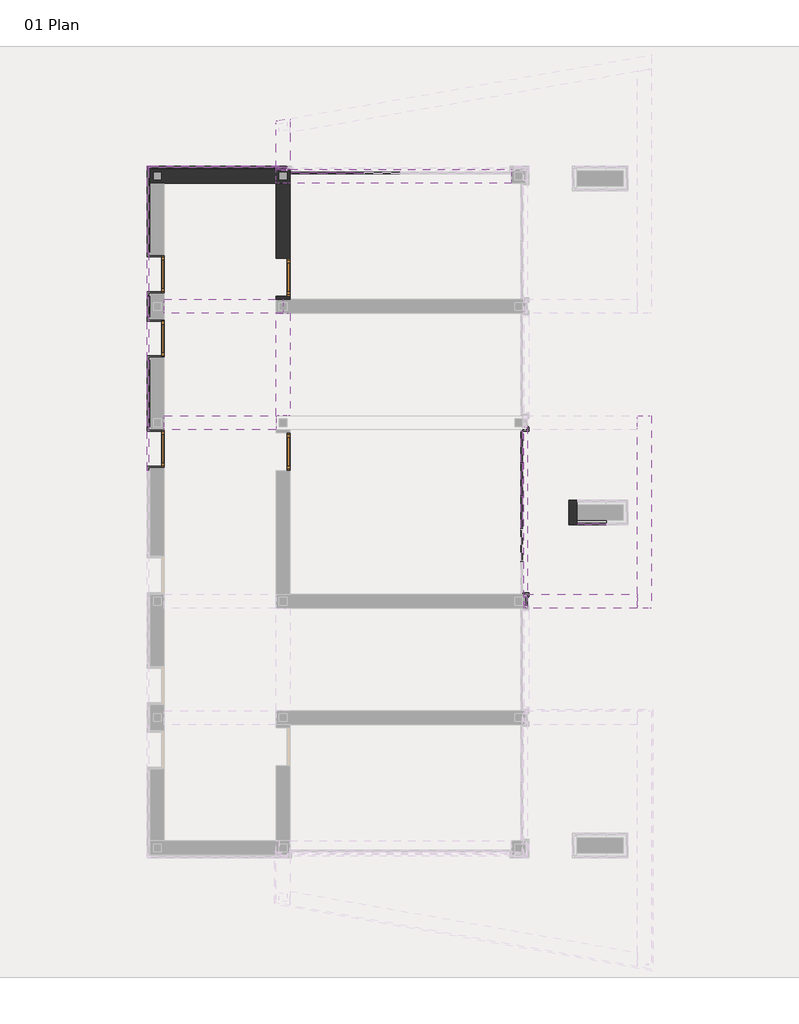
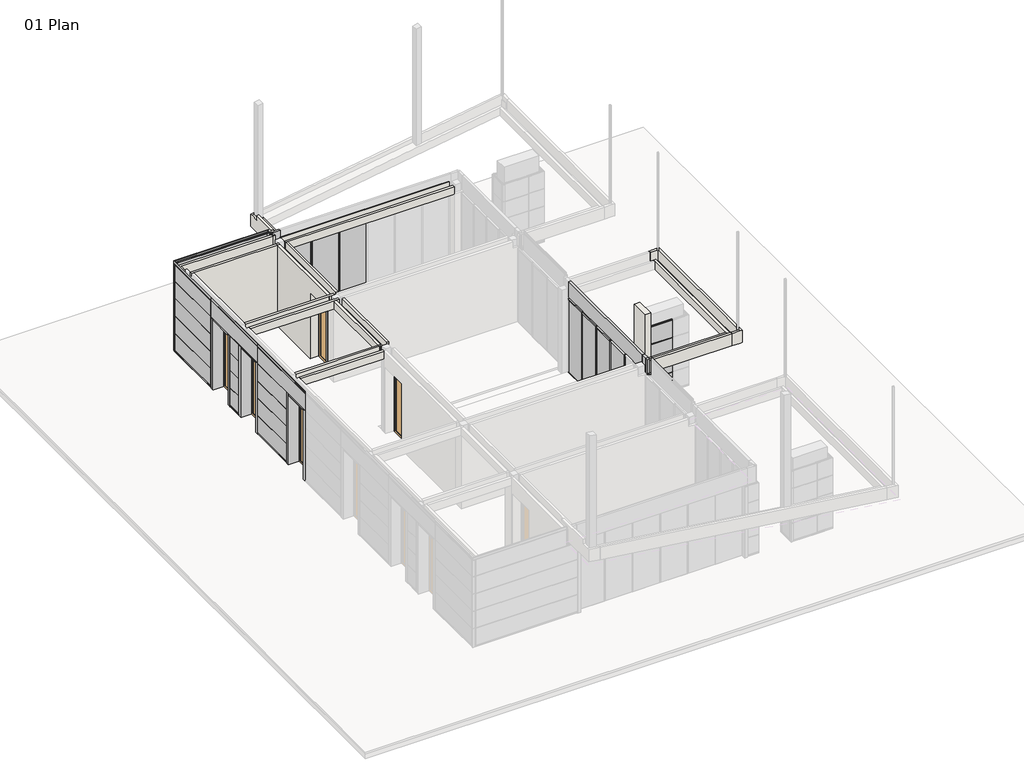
# One storey, part 3 of 5: 44 plates, 19 members, 14 walls, 5 doors.
"""IFC4 building model written with IfcOpenShell, lengths in millimetres."""

from ifc_helpers import new_model, si_unit, frame, origin, place, context, project, spatial, polyline, outline, extrude, faceted_brep, transform, mapped, element, save
from components import door_1100x2900mm_1200x3000mm_8766706f, door_1100x2900mm_1200x3000mm_ee6ac332, door_1100x3068mm_1200x3168mm_a6e2f689, door_1100x3068mm_1200x3168mm_20ba0fd4, rectangular_mullion_d86abf8a, rectangular_mullion_e8d65c67, rectangular_mullion_c5e4a414, rectangular_mullion_8e28913d, rectangular_mullion_bb8d6ff1, rectangular_mullion_e95caec2, rectangular_mullion_08edc9b5, rectangular_mullion_7d0be01b, rectangular_mullion_265d4001, rectangular_mullion_ccc8bb2c, plate_ff0cff65, plate_443b5565, plate_399c5634, plate_297fb12d, plate_8f59ef12, plate_ed5daf5d, plate_2dd1b4a8, plate_870a59b6, plate_dc00106d, plate_37b519e1, plate_084c0bee, plate_07490929, plate_3d22d70f, plate_91c954e3, plate_49ad595c, plate_d4cb7aa0, plate_d049c8db, empty_system_panel_empty_7f93cfdc, empty_system_panel_empty_0363bcf5, empty_system_panel_empty_f8626ec1, empty_system_panel_empty_308f8124, empty_system_panel_empty_b9324def, empty_system_panel_empty_63036f14, empty_system_panel_empty_21350458, empty_system_panel_empty_247011cd, empty_system_panel_empty_27f944e1, system_panel_e7bdd35e, system_panel_c846f28c, system_panel_770c4b70, system_panel_7ee325bc

model = new_model("IFC4")

# Units and contexts
model_context = context("Model", 3, world=origin())
ifc_project = project(units=[si_unit("LENGTHUNIT", "METRE", prefix="MILLI")], contexts=[model_context])

# Site, building, storey
site = spatial("IfcSite", under=ifc_project)
building = spatial("IfcBuilding", under=site)
storey = spatial("IfcBuildingStorey", under=building, Name="01 Plan", Elevation=-4000.0)

# Doors
placement = place(None, origin())
door_1100x2900mm_1200x3000mm_shape = door_1100x2900mm_1200x3000mm_8766706f(model_context)
element("IfcDoor", 1, ObjectType="Door : 1100x2900mm (1200x3000mm)", at=placement, inside=storey, context=model_context, shape_type="MappedRepresentation", body=[
    mapped(door_1100x2900mm_1200x3000mm_shape, transform((-3774.3384937, 1935.5895435, -4000.0), x_axis=(0.0, 1.0, 0.0), y_axis=(-1.0, 0.0, 0.0), z_axis=(0.0, 0.0, 1.0))),
])
door_1100x2900mm_1200x3000mm_2_shape = door_1100x2900mm_1200x3000mm_ee6ac332(model_context)
element("IfcDoor", 2, ObjectType="Door : 1100x2900mm (1200x3000mm)", at=placement, inside=storey, context=model_context, shape_type="MappedRepresentation", body=[
    mapped(door_1100x2900mm_1200x3000mm_2_shape, transform((-3774.3384937, 7555.5895435, -4000.0), x_axis=(0.0, -1.0, 0.0), y_axis=(1.0, 0.0, 0.0), z_axis=(0.0, 0.0, 1.0))),
])
door_1100x3068mm_1200x3168mm_shape = door_1100x3068mm_1200x3168mm_a6e2f689(model_context)
element("IfcDoor", 3, ObjectType="Door : 1100x3068mm (1200x3168mm)", at=placement, inside=storey, context=model_context, shape_type="MappedRepresentation", body=[
    mapped(door_1100x3068mm_1200x3168mm_shape, transform((-7824.3384937, 5585.5895435, -4000.0), x_axis=(0.0, 1.0, 0.0), y_axis=(-1.0, 0.0, 0.0), z_axis=(0.0, 0.0, 1.0))),
])
element("IfcDoor", 4, ObjectType="Door : 1100x3068mm (1200x3168mm)", at=placement, inside=storey, context=model_context, shape_type="MappedRepresentation", body=[
    mapped(door_1100x3068mm_1200x3168mm_shape, transform((-7824.3384937, 2035.5895435, -4000.0), x_axis=(0.0, 1.0, 0.0), y_axis=(-1.0, 0.0, 0.0), z_axis=(0.0, 0.0, 1.0))),
])
door_1100x3068mm_1200x3168mm_2_shape = door_1100x3068mm_1200x3168mm_20ba0fd4(model_context)
element("IfcDoor", 5, ObjectType="Door : 1100x3068mm (1200x3168mm)", at=placement, inside=storey, context=model_context, shape_type="MappedRepresentation", body=[
    mapped(door_1100x3068mm_1200x3168mm_2_shape, transform((-7824.3384937, 7655.5895435, -4000.0), x_axis=(0.0, -1.0, 0.0), y_axis=(1.0, 0.0, 0.0), z_axis=(0.0, 0.0, 1.0))),
])

# Members
rectangular_mullion_shape = rectangular_mullion_d86abf8a(model_context)
element("IfcMember", 6, ObjectType="Rectangular Mullion : Mullion_Curtain Wall_Generic Showcase_50x50mm", at=placement, inside=storey, context=model_context, shape_type="MappedRepresentation", body=[
    mapped(rectangular_mullion_shape, transform((3950.6615063, -509.4104565, -650.0), x_axis=(0.0, 0.0, 1.0), y_axis=(-1.0, 0.0, 0.0), z_axis=(0.0, -1.0, 0.0))),
])
element("IfcMember", 7, ObjectType="Rectangular Mullion : Mullion_Curtain Wall_Generic Showcase_50x50mm", at=placement, inside=storey, context=model_context, shape_type="MappedRepresentation", body=[
    mapped(rectangular_mullion_shape, transform((3950.6615063, 550.5895435, -650.0), x_axis=(0.0, 0.0, 1.0), y_axis=(-1.0, 0.0, 0.0), z_axis=(0.0, -1.0, 0.0))),
])
rectangular_mullion_2_shape = rectangular_mullion_e8d65c67(model_context)
element("IfcMember", 8, ObjectType="Rectangular Mullion : Mullion_Curtain Wall_Generic Showcase_50x50mm", at=placement, inside=storey, context=model_context, shape_type="MappedRepresentation", body=[
    mapped(rectangular_mullion_2_shape, transform((-3549.3384937, 10945.5895435, -650.0), x_axis=(-1.0, 0.0, 0.0), y_axis=(0.0, -1.0, 0.0), z_axis=(0.0, 0.0, 1.0))),
])
rectangular_mullion_3_shape = rectangular_mullion_c5e4a414(model_context)
element("IfcMember", 9, ObjectType="Rectangular Mullion : Mullion_Curtain Wall_Generic Showcase_50x50mm", at=placement, inside=storey, context=model_context, shape_type="MappedRepresentation", body=[
    mapped(rectangular_mullion_3_shape, transform((3950.6615063, -1594.4104565, -4100.0), x_axis=(0.0, -1.0, 0.0), y_axis=(-1.0, 0.0, 0.0), z_axis=(0.0, 0.0, -1.0))),
])
element("IfcMember", 10, ObjectType="Rectangular Mullion : Mullion_Curtain Wall_Generic Showcase_50x50mm", at=placement, inside=storey, context=model_context, shape_type="MappedRepresentation", body=[
    mapped(rectangular_mullion_3_shape, transform((3950.6615063, -534.4104565, -4100.0), x_axis=(0.0, -1.0, 0.0), y_axis=(-1.0, 0.0, 0.0), z_axis=(0.0, 0.0, -1.0))),
])
element("IfcMember", 11, ObjectType="Rectangular Mullion : Mullion_Curtain Wall_Generic Showcase_50x50mm", at=placement, inside=storey, context=model_context, shape_type="MappedRepresentation", body=[
    mapped(rectangular_mullion_3_shape, transform((3950.6615063, 525.5895435, -4100.0), x_axis=(0.0, -1.0, 0.0), y_axis=(-1.0, 0.0, 0.0), z_axis=(0.0, 0.0, -1.0))),
])
element("IfcMember", 12, ObjectType="Rectangular Mullion : Mullion_Curtain Wall_Generic Showcase_50x50mm", at=placement, inside=storey, context=model_context, shape_type="MappedRepresentation", body=[
    mapped(rectangular_mullion_3_shape, transform((3950.6615063, 1585.5895435, -4100.0), x_axis=(0.0, -1.0, 0.0), y_axis=(-1.0, 0.0, 0.0), z_axis=(0.0, 0.0, -1.0))),
])
element("IfcMember", 13, ObjectType="Rectangular Mullion : Mullion_Curtain Wall_Generic Showcase_50x50mm", at=placement, inside=storey, context=model_context, shape_type="MappedRepresentation", body=[
    mapped(rectangular_mullion_3_shape, transform((-1166.0051604, 10945.5895435, -4100.0), x_axis=(1.0, 0.0, 0.0), y_axis=(0.0, -1.0, 0.0), z_axis=(0.0, 0.0, -1.0))),
])
element("IfcMember", 14, ObjectType="Rectangular Mullion : Mullion_Curtain Wall_Generic Showcase_50x50mm", at=placement, inside=storey, context=model_context, shape_type="MappedRepresentation", body=[
    mapped(rectangular_mullion_3_shape, transform((-2357.671827, 10945.5895435, -4100.0), x_axis=(1.0, 0.0, 0.0), y_axis=(0.0, -1.0, 0.0), z_axis=(0.0, 0.0, -1.0))),
])
rectangular_mullion_4_shape = rectangular_mullion_8e28913d(model_context)
element("IfcMember", 15, ObjectType="Rectangular Mullion : Mullion_Curtain Wall_Generic Showcase_50x100mm", at=placement, inside=storey, context=model_context, shape_type="MappedRepresentation", body=[
    mapped(rectangular_mullion_4_shape, transform((3950.6615063, -559.4104565, -4100.0), x_axis=(0.0, 0.0, -1.0), y_axis=(-1.0, 0.0, 0.0), z_axis=(0.0, 1.0, 0.0))),
])
element("IfcMember", 16, ObjectType="Rectangular Mullion : Mullion_Curtain Wall_Generic Showcase_50x100mm", at=placement, inside=storey, context=model_context, shape_type="MappedRepresentation", body=[
    mapped(rectangular_mullion_4_shape, transform((3950.6615063, 500.5895435, -4100.0), x_axis=(0.0, 0.0, -1.0), y_axis=(-1.0, 0.0, 0.0), z_axis=(0.0, 1.0, 0.0))),
])
element("IfcMember", 17, ObjectType="Rectangular Mullion : Mullion_Curtain Wall_Generic Showcase_50x100mm", at=placement, inside=storey, context=model_context, shape_type="MappedRepresentation", body=[
    mapped(rectangular_mullion_4_shape, transform((3950.6615063, 1560.5895435, -4100.0), x_axis=(0.0, 0.0, -1.0), y_axis=(-1.0, 0.0, 0.0), z_axis=(0.0, 1.0, 0.0))),
])
rectangular_mullion_5_shape = rectangular_mullion_bb8d6ff1(model_context)
element("IfcMember", 18, ObjectType="Rectangular Mullion : Mullion_Curtain Wall_Generic Showcase_50x50mm", at=placement, inside=storey, context=model_context, shape_type="MappedRepresentation", body=[
    mapped(rectangular_mullion_5_shape, transform((-1191.0051604, 10945.5895435, -650.0), x_axis=(0.0, 0.0, 1.0), y_axis=(0.0, -1.0, 0.0), z_axis=(1.0, 0.0, 0.0))),
])
rectangular_mullion_6_shape = rectangular_mullion_e95caec2(model_context)
element("IfcMember", 19, ObjectType="Rectangular Mullion : Mullion_Curtain Wall_Generic Showcase_50x100mm", at=placement, inside=storey, context=model_context, shape_type="MappedRepresentation", body=[
    mapped(rectangular_mullion_6_shape, transform((-1141.0051604, 10945.5895435, -4100.0), x_axis=(0.0, 0.0, -1.0), y_axis=(0.0, -1.0, 0.0), z_axis=(-1.0, 0.0, 0.0))),
])
element("IfcMember", 20, ObjectType="Rectangular Mullion : Mullion_Curtain Wall_Generic Showcase_50x100mm", at=placement, inside=storey, context=model_context, shape_type="MappedRepresentation", body=[
    mapped(rectangular_mullion_6_shape, transform((-2332.671827, 10945.5895435, -4100.0), x_axis=(0.0, 0.0, -1.0), y_axis=(0.0, -1.0, 0.0), z_axis=(-1.0, 0.0, 0.0))),
])
rectangular_mullion_7_shape = rectangular_mullion_08edc9b5(model_context)
element("IfcMember", 21, ObjectType="Rectangular Mullion : Mullion_Curtain Wall_Generic Showcase_50x50mm", at=placement, inside=storey, context=model_context, shape_type="MappedRepresentation", body=[
    mapped(rectangular_mullion_7_shape, transform((-2382.671827, 10945.5895435, -650.0), x_axis=(0.0, 0.0, 1.0), y_axis=(0.0, -1.0, 0.0), z_axis=(1.0, 0.0, 0.0))),
])
rectangular_mullion_8_shape = rectangular_mullion_7d0be01b(model_context)
element("IfcMember", 22, ObjectType="Rectangular Mullion : Mullion_Curtain Wall_Generic Showcase_50x100mm", at=placement, inside=storey, context=model_context, shape_type="MappedRepresentation", body=[
    mapped(rectangular_mullion_8_shape, transform((-3499.3384937, 10945.5895435, -4100.0), x_axis=(0.0, 0.0, -1.0), y_axis=(0.0, -1.0, 0.0), z_axis=(-1.0, 0.0, 0.0))),
])
rectangular_mullion_9_shape = rectangular_mullion_265d4001(model_context)
element("IfcMember", 23, ObjectType="Rectangular Mullion : Mullion_Curtain Wall_Generic Showcase_50x50mm", at=placement, inside=storey, context=model_context, shape_type="MappedRepresentation", body=[
    mapped(rectangular_mullion_9_shape, transform((3950.6615063, 1610.5895435, -650.0), x_axis=(0.0, 0.0, 1.0), y_axis=(-1.0, 0.0, 0.0), z_axis=(0.0, -1.0, 0.0))),
])
rectangular_mullion_10_shape = rectangular_mullion_ccc8bb2c(model_context)
element("IfcMember", 24, ObjectType="Rectangular Mullion : Mullion_Curtain Wall_Generic Showcase_50x100mm", at=placement, inside=storey, context=model_context, shape_type="MappedRepresentation", body=[
    mapped(rectangular_mullion_10_shape, transform((3950.6615063, 2595.5895435, -4100.0), x_axis=(0.0, 0.0, -1.0), y_axis=(-1.0, 0.0, 0.0), z_axis=(0.0, 1.0, 0.0))),
])

# Plates
plate_shape = plate_ff0cff65(model_context)
element("IfcPlate", 25, ObjectType="Trimo_Qbiss Screen_Normal Panel-HORIZONTAL : HR - B", at=placement, inside=storey, context=model_context, shape_type="MappedRepresentation", body=[
    mapped(plate_shape, transform((-5848.0884937, 11045.5895435, -2324.1), x_axis=(1.0, 0.0, 0.0), y_axis=(0.0, 1.0, 0.0), z_axis=(0.0, 0.0, 1.0))),
])
element("IfcPlate", 26, ObjectType="Trimo_Qbiss Screen_Normal Panel-HORIZONTAL : HR - B", at=placement, inside=storey, context=model_context, shape_type="MappedRepresentation", body=[
    mapped(plate_shape, transform((-5848.0884937, 11045.5895435, -1536.15), x_axis=(1.0, 0.0, 0.0), y_axis=(0.0, 1.0, 0.0), z_axis=(0.0, 0.0, 1.0))),
])
element("IfcPlate", 27, ObjectType="Trimo_Qbiss Screen_Normal Panel-HORIZONTAL : HR - B", at=placement, inside=storey, context=model_context, shape_type="MappedRepresentation", body=[
    mapped(plate_shape, transform((-5848.0884937, 11045.5895435, -3112.05), x_axis=(1.0, 0.0, 0.0), y_axis=(0.0, 1.0, 0.0), z_axis=(0.0, 0.0, 1.0))),
])
plate_2_shape = plate_443b5565(model_context)
element("IfcPlate", 28, ObjectType="Trimo_Qbiss Screen_Normal Panel-HORIZONTAL : HR - B", at=placement, inside=storey, context=model_context, shape_type="MappedRepresentation", body=[
    mapped(plate_2_shape, transform((-6024.3384937, 11045.5895435, -748.2), x_axis=(1.0, 0.0, 0.0), y_axis=(0.0, 1.0, 0.0), z_axis=(0.0, 0.0, 1.0))),
])
plate_3_shape = plate_399c5634(model_context)
element("IfcPlate", 29, ObjectType="Trimo_Qbiss Screen_Normal Panel-HORIZONTAL : HR - B", at=placement, inside=storey, context=model_context, shape_type="MappedRepresentation", body=[
    mapped(plate_3_shape, transform((-5848.0884937, 11045.5895435, -3900.0), x_axis=(1.0, 0.0, 0.0), y_axis=(0.0, 1.0, 0.0), z_axis=(0.0, 0.0, 1.0))),
])
plate_4_shape = plate_297fb12d(model_context)
element("IfcPlate", 30, ObjectType="Trimo_Qbiss Screen_Normal Panel-HORIZONTAL : HR - B", at=placement, inside=storey, context=model_context, shape_type="MappedRepresentation", body=[
    mapped(plate_4_shape, transform((-8049.3384937, 6620.5895435, -3112.05), x_axis=(0.0, 1.0, 0.0), y_axis=(-1.0, 0.0, 0.0), z_axis=(0.0, 0.0, 1.0))),
])
element("IfcPlate", 31, ObjectType="Trimo_Qbiss Screen_Normal Panel-HORIZONTAL : HR - B", at=placement, inside=storey, context=model_context, shape_type="MappedRepresentation", body=[
    mapped(plate_4_shape, transform((-8049.3384937, 6620.5895435, -2324.1), x_axis=(0.0, 1.0, 0.0), y_axis=(-1.0, 0.0, 0.0), z_axis=(0.0, 0.0, 1.0))),
])
element("IfcPlate", 32, ObjectType="Trimo_Qbiss Screen_Normal Panel-HORIZONTAL : HR - B", at=placement, inside=storey, context=model_context, shape_type="MappedRepresentation", body=[
    mapped(plate_4_shape, transform((-8049.3384937, 6620.5895435, -1536.15), x_axis=(0.0, 1.0, 0.0), y_axis=(-1.0, 0.0, 0.0), z_axis=(0.0, 0.0, 1.0))),
])
plate_5_shape = plate_8f59ef12(model_context)
element("IfcPlate", 33, ObjectType="Trimo_Qbiss Screen_Normal Panel-HORIZONTAL : HR - B", at=placement, inside=storey, context=model_context, shape_type="MappedRepresentation", body=[
    mapped(plate_5_shape, transform((-8049.3384937, 6620.5895435, -3900.0), x_axis=(0.0, 1.0, 0.0), y_axis=(-1.0, 0.0, 0.0), z_axis=(0.0, 0.0, 1.0))),
])
plate_6_shape = plate_ed5daf5d(model_context)
element("IfcPlate", 34, ObjectType="Trimo_Qbiss Screen_Normal Panel-HORIZONTAL : HR - B", at=placement, inside=storey, context=model_context, shape_type="MappedRepresentation", body=[
    mapped(plate_6_shape, transform((-8049.3384937, 9704.3395435, -3112.05), x_axis=(0.0, 1.0, 0.0), y_axis=(-1.0, 0.0, 0.0), z_axis=(0.0, 0.0, 1.0))),
])
element("IfcPlate", 35, ObjectType="Trimo_Qbiss Screen_Normal Panel-HORIZONTAL : HR - B", at=placement, inside=storey, context=model_context, shape_type="MappedRepresentation", body=[
    mapped(plate_6_shape, transform((-8049.3384937, 9704.3395435, -2324.1), x_axis=(0.0, 1.0, 0.0), y_axis=(-1.0, 0.0, 0.0), z_axis=(0.0, 0.0, 1.0))),
])
element("IfcPlate", 36, ObjectType="Trimo_Qbiss Screen_Normal Panel-HORIZONTAL : HR - B", at=placement, inside=storey, context=model_context, shape_type="MappedRepresentation", body=[
    mapped(plate_6_shape, transform((-8049.3384937, 9704.3395435, -1536.15), x_axis=(0.0, 1.0, 0.0), y_axis=(-1.0, 0.0, 0.0), z_axis=(0.0, 0.0, 1.0))),
])
plate_7_shape = plate_2dd1b4a8(model_context)
element("IfcPlate", 37, ObjectType="Trimo_Qbiss Screen_Normal Panel-HORIZONTAL : HR - B", at=placement, inside=storey, context=model_context, shape_type="MappedRepresentation", body=[
    mapped(plate_7_shape, transform((-8049.3384937, 9704.3395435, -748.2), x_axis=(0.0, 1.0, 0.0), y_axis=(-1.0, 0.0, 0.0), z_axis=(0.0, 0.0, 1.0))),
])
plate_8_shape = plate_870a59b6(model_context)
element("IfcPlate", 38, ObjectType="Trimo_Qbiss Screen_Normal Panel-HORIZONTAL : HR - B", at=placement, inside=storey, context=model_context, shape_type="MappedRepresentation", body=[
    mapped(plate_8_shape, transform((-8049.3384937, 9704.3395435, -3900.0), x_axis=(0.0, 1.0, 0.0), y_axis=(-1.0, 0.0, 0.0), z_axis=(0.0, 0.0, 1.0))),
])
plate_9_shape = plate_dc00106d(model_context)
element("IfcPlate", 39, ObjectType="Trimo_Qbiss Screen_Normal Panel-HORIZONTAL : HR - B", at=placement, inside=storey, context=model_context, shape_type="MappedRepresentation", body=[
    mapped(plate_9_shape, transform((-8049.3384937, 6620.5895435, -748.2), x_axis=(0.0, 1.0, 0.0), y_axis=(-1.0, 0.0, 0.0), z_axis=(0.0, 0.0, 1.0))),
])
plate_10_shape = plate_37b519e1(model_context)
element("IfcPlate", 40, ObjectType="Trimo_Qbiss Screen_Normal Panel-HORIZONTAL : HR - B", at=placement, inside=storey, context=model_context, shape_type="MappedRepresentation", body=[
    mapped(plate_10_shape, transform((-8049.3384937, 3810.9895435, -3112.05), x_axis=(0.0, 1.0, 0.0), y_axis=(-1.0, 0.0, 0.0), z_axis=(0.0, 0.0, 1.0))),
])
element("IfcPlate", 41, ObjectType="Trimo_Qbiss Screen_Normal Panel-HORIZONTAL : HR - B", at=placement, inside=storey, context=model_context, shape_type="MappedRepresentation", body=[
    mapped(plate_10_shape, transform((-8049.3384937, 3810.9895435, -2324.1), x_axis=(0.0, 1.0, 0.0), y_axis=(-1.0, 0.0, 0.0), z_axis=(0.0, 0.0, 1.0))),
])
element("IfcPlate", 42, ObjectType="Trimo_Qbiss Screen_Normal Panel-HORIZONTAL : HR - B", at=placement, inside=storey, context=model_context, shape_type="MappedRepresentation", body=[
    mapped(plate_10_shape, transform((-8049.3384937, 3810.9895435, -1536.15), x_axis=(0.0, 1.0, 0.0), y_axis=(-1.0, 0.0, 0.0), z_axis=(0.0, 0.0, 1.0))),
])
plate_11_shape = plate_084c0bee(model_context)
element("IfcPlate", 43, ObjectType="Trimo_Qbiss Screen_Normal Panel-HORIZONTAL : HR - B", at=placement, inside=storey, context=model_context, shape_type="MappedRepresentation", body=[
    mapped(plate_11_shape, transform((-8049.3384937, 3810.9895435, -3900.0), x_axis=(0.0, 1.0, 0.0), y_axis=(-1.0, 0.0, 0.0), z_axis=(0.0, 0.0, 1.0))),
])
plate_12_shape = plate_07490929(model_context)
element("IfcPlate", 44, ObjectType="Trimo_Qbiss Screen_Normal Panel-HORIZONTAL : HR - B", at=placement, inside=storey, context=model_context, shape_type="MappedRepresentation", body=[
    mapped(plate_12_shape, transform((-8049.3384937, 3103.0895435, -748.2), x_axis=(0.0, 1.0, 0.0), y_axis=(-1.0, 0.0, 0.0), z_axis=(0.0, 0.0, 1.0))),
])
plate_13_shape = plate_3d22d70f(model_context)
element("IfcPlate", 45, ObjectType="Trimo_Qbiss Screen_Wall Opening Trims-HORIZONTAL : HR - B", at=placement, inside=storey, context=model_context, shape_type="MappedRepresentation", body=[
    mapped(plate_13_shape, transform((-8049.3384937, 5585.5895435, -4000.0), x_axis=(0.0, 1.0, 0.0), y_axis=(-1.0, 0.0, 0.0), z_axis=(0.0, 0.0, 1.0))),
])
element("IfcPlate", 46, ObjectType="Trimo_Qbiss Screen_Wall Opening Trims-HORIZONTAL : HR - B", at=placement, inside=storey, context=model_context, shape_type="MappedRepresentation", body=[
    mapped(plate_13_shape, transform((-8049.3384937, 7655.5895435, -4000.0), x_axis=(0.0, 1.0, 0.0), y_axis=(-1.0, 0.0, 0.0), z_axis=(0.0, 0.0, 1.0))),
])
plate_14_shape = plate_91c954e3(model_context)
element("IfcPlate", 47, ObjectType="Trimo_Qbiss Screen_Wall Opening Trims-HORIZONTAL : HR - B", at=placement, inside=storey, context=model_context, shape_type="MappedRepresentation", body=[
    mapped(plate_14_shape, transform((-8049.3384937, 2035.9895435, -4000.0), x_axis=(0.0, 1.0, 0.0), y_axis=(-1.0, 0.0, 0.0), z_axis=(0.0, 0.0, 1.0))),
])
plate_15_shape = plate_49ad595c(model_context)
element("IfcPlate", 48, ObjectType="Trimo_Qbiss Screen_Wall Opening Trims-HORIZONTAL : HR - B", at=placement, inside=storey, context=model_context, shape_type="MappedRepresentation", body=[
    mapped(plate_15_shape, transform((4050.6615063, -4.4104565, -4000.0), x_axis=(0.0, -1.0, 0.0), y_axis=(1.0, 0.0, 0.0), z_axis=(0.0, 0.0, 1.0))),
])
plate_16_shape = plate_d4cb7aa0(model_context)
element("IfcPlate", 49, ObjectType="Trimo_Qbiss Screen_Normal Panel-HORIZONTAL : HR - B", at=placement, inside=storey, context=model_context, shape_type="MappedRepresentation", body=[
    mapped(plate_16_shape, transform((6179.4115063, -266.9104565, -3900.0), x_axis=(-1.0, 0.0, 0.0), y_axis=(0.0, -1.0, 0.0), z_axis=(0.0, 0.0, 1.0))),
])
plate_17_shape = plate_d049c8db(model_context)
element("IfcPlate", 50, ObjectType="Trimo_Qbiss Screen_Normal Panel-HORIZONTAL : HR - B", at=placement, inside=storey, context=model_context, shape_type="MappedRepresentation", body=[
    mapped(plate_17_shape, transform((6179.4115063, -266.9104565, -2324.1), x_axis=(-1.0, 0.0, 0.0), y_axis=(0.0, -1.0, 0.0), z_axis=(0.0, 0.0, 1.0))),
])
element("IfcPlate", 51, ObjectType="Trimo_Qbiss Screen_Normal Panel-HORIZONTAL : HR - B", at=placement, inside=storey, context=model_context, shape_type="MappedRepresentation", body=[
    mapped(plate_17_shape, transform((6179.4115063, -266.9104565, -1536.15), x_axis=(-1.0, 0.0, 0.0), y_axis=(0.0, -1.0, 0.0), z_axis=(0.0, 0.0, 1.0))),
])
element("IfcPlate", 52, ObjectType="Trimo_Qbiss Screen_Normal Panel-HORIZONTAL : HR - B", at=placement, inside=storey, context=model_context, shape_type="MappedRepresentation", body=[
    mapped(plate_17_shape, transform((6179.4115063, -266.9104565, -3112.05), x_axis=(-1.0, 0.0, 0.0), y_axis=(0.0, -1.0, 0.0), z_axis=(0.0, 0.0, 1.0))),
])
empty_system_panel_empty_shape = empty_system_panel_empty_7f93cfdc(model_context)
element("IfcPlate", 53, ObjectType="Empty System Panel : Empty", at=placement, inside=storey, context=model_context, shape_type="MappedRepresentation", body=[
    mapped(empty_system_panel_empty_shape, transform((-3823.0884937, 11045.5895435, -748.2), x_axis=(1.0, 0.0, 0.0), y_axis=(0.0, 1.0, 0.0), z_axis=(0.0, 0.0, 1.0))),
])
empty_system_panel_empty_2_shape = empty_system_panel_empty_0363bcf5(model_context)
element("IfcPlate", 54, ObjectType="Empty System Panel : Empty", at=placement, inside=storey, context=model_context, shape_type="MappedRepresentation", body=[
    mapped(empty_system_panel_empty_2_shape, transform((4050.6615063, -2879.4104565, -748.2), x_axis=(0.0, -1.0, 0.0), y_axis=(1.0, 0.0, 0.0), z_axis=(0.0, 0.0, 1.0))),
])
empty_system_panel_empty_3_shape = empty_system_panel_empty_f8626ec1(model_context)
element("IfcPlate", 55, ObjectType="Empty System Panel : Empty", at=placement, inside=storey, context=model_context, shape_type="MappedRepresentation", body=[
    mapped(empty_system_panel_empty_3_shape, transform((4050.6615063, -3055.6604565, -748.2), x_axis=(0.0, -1.0, 0.0), y_axis=(1.0, 0.0, 0.0), z_axis=(0.0, 0.0, 1.0))),
])
empty_system_panel_empty_4_shape = empty_system_panel_empty_308f8124(model_context)
element("IfcPlate", 56, ObjectType="Empty System Panel : Empty", at=placement, inside=storey, context=model_context, shape_type="MappedRepresentation", body=[
    mapped(empty_system_panel_empty_4_shape, transform((4050.6615063, -4.4104565, -748.2), x_axis=(0.0, -1.0, 0.0), y_axis=(1.0, 0.0, 0.0), z_axis=(0.0, 0.0, 1.0))),
])
empty_system_panel_empty_5_shape = empty_system_panel_empty_b9324def(model_context)
element("IfcPlate", 57, ObjectType="Empty System Panel : Empty", at=placement, inside=storey, context=model_context, shape_type="MappedRepresentation", body=[
    mapped(empty_system_panel_empty_5_shape, transform((-5848.0884937, 11045.5895435, -4000.0), x_axis=(1.0, 0.0, 0.0), y_axis=(0.0, 1.0, 0.0), z_axis=(0.0, 0.0, 1.0))),
])
empty_system_panel_empty_6_shape = empty_system_panel_empty_63036f14(model_context)
element("IfcPlate", 58, ObjectType="Empty System Panel : Empty", at=placement, inside=storey, context=model_context, shape_type="MappedRepresentation", body=[
    mapped(empty_system_panel_empty_6_shape, transform((4050.6615063, -2879.4104565, -4000.0), x_axis=(0.0, -1.0, 0.0), y_axis=(1.0, 0.0, 0.0), z_axis=(0.0, 0.0, 1.0))),
])
empty_system_panel_empty_7_shape = empty_system_panel_empty_21350458(model_context)
element("IfcPlate", 59, ObjectType="Empty System Panel : Empty", at=placement, inside=storey, context=model_context, shape_type="MappedRepresentation", body=[
    mapped(empty_system_panel_empty_7_shape, transform((-8049.3384937, 6620.5895435, -4000.0), x_axis=(0.0, 1.0, 0.0), y_axis=(-1.0, 0.0, 0.0), z_axis=(0.0, 0.0, 1.0))),
])
empty_system_panel_empty_8_shape = empty_system_panel_empty_247011cd(model_context)
element("IfcPlate", 60, ObjectType="Empty System Panel : Empty", at=placement, inside=storey, context=model_context, shape_type="MappedRepresentation", body=[
    mapped(empty_system_panel_empty_8_shape, transform((-8049.3384937, 9704.3395435, -4000.0), x_axis=(0.0, 1.0, 0.0), y_axis=(-1.0, 0.0, 0.0), z_axis=(0.0, 0.0, 1.0))),
])
empty_system_panel_empty_9_shape = empty_system_panel_empty_27f944e1(model_context)
element("IfcPlate", 61, ObjectType="Empty System Panel : Empty", at=placement, inside=storey, context=model_context, shape_type="MappedRepresentation", body=[
    mapped(empty_system_panel_empty_9_shape, transform((-8049.3384937, 3810.9895435, -4000.0), x_axis=(0.0, 1.0, 0.0), y_axis=(-1.0, 0.0, 0.0), z_axis=(0.0, 0.0, 1.0))),
])
system_panel_shape = system_panel_e7bdd35e(model_context)
element("IfcPlate", 62, ObjectType="System Panel : Panel_Glazed_Generic Showcase_30mm", at=placement, inside=storey, context=model_context, shape_type="MappedRepresentation", body=[
    mapped(system_panel_shape, transform((3950.6615063, -1064.4104565, -4000.0), x_axis=(0.0, -1.0, 0.0), y_axis=(1.0, 0.0, 0.0), z_axis=(0.0, 0.0, 1.0))),
])
element("IfcPlate", 63, ObjectType="System Panel : Panel_Glazed_Generic Showcase_30mm", at=placement, inside=storey, context=model_context, shape_type="MappedRepresentation", body=[
    mapped(system_panel_shape, transform((3950.6615063, -4.4104565, -4000.0), x_axis=(0.0, -1.0, 0.0), y_axis=(1.0, 0.0, 0.0), z_axis=(0.0, 0.0, 1.0))),
])
element("IfcPlate", 64, ObjectType="System Panel : Panel_Glazed_Generic Showcase_30mm", at=placement, inside=storey, context=model_context, shape_type="MappedRepresentation", body=[
    mapped(system_panel_shape, transform((3950.6615063, 1055.5895435, -4000.0), x_axis=(0.0, -1.0, 0.0), y_axis=(1.0, 0.0, 0.0), z_axis=(0.0, 0.0, 1.0))),
])
system_panel_2_shape = system_panel_c846f28c(model_context)
element("IfcPlate", 65, ObjectType="System Panel : Panel_Glazed_Generic Showcase_30mm", at=placement, inside=storey, context=model_context, shape_type="MappedRepresentation", body=[
    mapped(system_panel_2_shape, transform((-570.171827, 10945.5895435, -4000.0), x_axis=(1.0, 0.0, 0.0), y_axis=(0.0, 1.0, 0.0), z_axis=(0.0, 0.0, 1.0))),
])
element("IfcPlate", 66, ObjectType="System Panel : Panel_Glazed_Generic Showcase_30mm", at=placement, inside=storey, context=model_context, shape_type="MappedRepresentation", body=[
    mapped(system_panel_2_shape, transform((-1761.8384937, 10945.5895435, -4000.0), x_axis=(1.0, 0.0, 0.0), y_axis=(0.0, 1.0, 0.0), z_axis=(0.0, 0.0, 1.0))),
])
system_panel_3_shape = system_panel_770c4b70(model_context)
element("IfcPlate", 67, ObjectType="System Panel : Panel_Glazed_Generic Showcase_30mm", at=placement, inside=storey, context=model_context, shape_type="MappedRepresentation", body=[
    mapped(system_panel_3_shape, transform((-2941.0051604, 10945.5895435, -4000.0), x_axis=(1.0, 0.0, 0.0), y_axis=(0.0, 1.0, 0.0), z_axis=(0.0, 0.0, 1.0))),
])
system_panel_4_shape = system_panel_7ee325bc(model_context)
element("IfcPlate", 68, ObjectType="System Panel : Panel_Glazed_Generic Showcase_30mm", at=placement, inside=storey, context=model_context, shape_type="MappedRepresentation", body=[
    mapped(system_panel_4_shape, transform((3950.6615063, 2103.0895435, -4000.0), x_axis=(0.0, -1.0, 0.0), y_axis=(1.0, 0.0, 0.0), z_axis=(0.0, 0.0, 1.0))),
])

# Walls
element("IfcWall", 69, ObjectType="Wall_Foundation_Generic Showcase_250mm", at=placement, inside=storey, context=model_context, shape_type="SweptSolid", body=[
    extrude(outline(polyline([(3750.6615063, 2745.5895435), (-7749.3384937, 2745.5895435), (-7749.3384937, 2995.5895435), (3750.6615063, 2995.5895435), (3750.6615063, 2745.5895435)])), frame((0.0, 0.0, -4700.0), z_axis=(0.0, 0.0, 1.0), x_axis=(1.0, 0.0, 0.0)), (0.0, 0.0, 1.0), 400.0),
])
element("IfcWall", 70, ObjectType="Wall_Foundation_Generic Showcase_250mm", at=placement, inside=storey, context=model_context, shape_type="Brep", body=[
    faceted_brep([(-7999.3384937, 10745.5895435, -4700.0), (-7749.3384937, 10745.5895435, -4700.0), (3750.6615063, 10745.5895435, -4700.0), (3750.6615063, 10745.5895435, -4300.0), (-7749.3384937, 10745.5895435, -4300.0), (-7999.3384937, 10745.5895435, -4300.0), (3750.6615063, 10995.5895435, -4700.0), (-7999.3384937, 10995.5895435, -4700.0), (-7999.3384937, 10995.5895435, -4300.0), (3750.6615063, 10995.5895435, -4300.0)], [[[0, 1, 2, 3, 4, 5]], [[6, 7, 8, 9]], [[2, 1, 0, 7, 6]], [[7, 0, 5, 8]], [[5, 4, 3, 9, 8]], [[2, 6, 9, 3]]]),
])
element("IfcWall", 71, ObjectType="Wall_Foundation_Generic Showcase_250mm", at=placement, inside=storey, context=model_context, shape_type="Brep", body=[
    faceted_brep([(3750.6615063, 10995.5895435, -4700.0), (3750.6615063, 10745.5895435, -4700.0), (3750.6615063, 6745.5895435, -4700.0), (3750.6615063, 6495.5895435, -4700.0), (3750.6615063, 2995.5895435, -4700.0), (3750.6615063, 2745.5895435, -4700.0), (3750.6615063, -2754.4104565, -4700.0), (3750.6615063, -3004.4104565, -4700.0), (3750.6615063, -6504.4104565, -4700.0), (3750.6615063, -6754.4104565, -4700.0), (3750.6615063, -10754.4104565, -4700.0), (3750.6615063, -11004.4104565, -4700.0), (3750.6615063, -11004.4104565, -4300.0), (3750.6615063, -10754.4104565, -4300.0), (3750.6615063, -6754.4104565, -4300.0), (3750.6615063, -6504.4104565, -4300.0), (3750.6615063, -3004.4104565, -4300.0), (3750.6615063, -2754.4104565, -4300.0), (3750.6615063, 2745.5895435, -4300.0), (3750.6615063, 2995.5895435, -4300.0), (3750.6615063, 6495.5895435, -4300.0), (3750.6615063, 6745.5895435, -4300.0), (3750.6615063, 10745.5895435, -4300.0), (3750.6615063, 10995.5895435, -4300.0), (4000.6615063, -11004.4104565, -4700.0), (4000.6615063, 10995.5895435, -4700.0), (4000.6615063, 10995.5895435, -4300.0), (4000.6615063, -11004.4104565, -4300.0)], [[[0, 1, 2, 3, 4, 5, 6, 7, 8, 9, 10, 11, 12, 13, 14, 15, 16, 17, 18, 19, 20, 21, 22, 23]], [[24, 25, 26, 27]], [[11, 10, 9, 8, 7, 6, 5, 4, 3, 2, 1, 0, 25, 24]], [[11, 24, 27, 12]], [[23, 22, 21, 20, 19, 18, 17, 16, 15, 14, 13, 12, 27, 26]], [[25, 0, 23, 26]]]),
])
element("IfcWall", 72, ObjectType="Wall_Foundation_Generic Showcase_250mm", at=placement, inside=storey, context=model_context, shape_type="SweptSolid", body=[
    extrude(outline(polyline([(3750.6615063, 6495.5895435), (-7749.3384937, 6495.5895435), (-7749.3384937, 6745.5895435), (3750.6615063, 6745.5895435), (3750.6615063, 6495.5895435)])), frame((0.0, 0.0, -4700.0), z_axis=(0.0, 0.0, 1.0), x_axis=(1.0, 0.0, 0.0)), (0.0, 0.0, 1.0), 400.0),
])
element("IfcWall", 73, ObjectType="Wall_Interior_Generic Showcase_450mm", at=placement, inside=storey, context=model_context, shape_type="Brep", body=[
    faceted_brep([(-3549.3384937, 10595.5895435, -300.0), (-3549.3384937, 6845.5895435, -300.0), (-3549.3384937, 6845.5895435, -4100.0), (-3549.3384937, 6945.5895435, -4100.0), (-3549.3384937, 6945.5895435, -4000.0), (-3549.3384937, 6945.5895435, -990.0), (-3549.3384937, 8165.5895435, -990.0), (-3549.3384937, 8165.5895435, -4000.0), (-3549.3384937, 8165.5895435, -4100.0), (-3549.3384937, 10595.5895435, -4100.0), (-3549.3384937, 10595.5895435, -650.0), (-3999.3384937, 6845.5895435, -300.0), (-3999.3384937, 10595.5895435, -300.0), (-3999.3384937, 10595.5895435, -4000.0), (-3999.3384937, 10595.5895435, -4100.0), (-3999.3384937, 8165.5895435, -4100.0), (-3999.3384937, 8165.5895435, -4000.0), (-3999.3384937, 8165.5895435, -990.0), (-3999.3384937, 6945.5895435, -990.0), (-3999.3384937, 6945.5895435, -4000.0), (-3999.3384937, 6945.5895435, -4100.0), (-3999.3384937, 6845.5895435, -4100.0), (-3999.3384937, 6845.5895435, -4000.0), (-3899.3384937, 6845.5895435, -300.0), (-3899.3384937, 6845.5895435, -600.0), (-3899.3384937, 10595.5895435, -600.0), (-3899.3384937, 10595.5895435, -300.0), (-3649.3384937, 6845.5895435, -600.0), (-3649.3384937, 10595.5895435, -600.0), (-3649.3384937, 6845.5895435, -300.0), (-3649.3384937, 10595.5895435, -300.0)], [[[0, 1, 2, 3, 4, 5, 6, 7, 8, 9, 10]], [[11, 12, 13, 14, 15, 16, 17, 18, 19, 20, 21, 22]], [[2, 21, 20, 3]], [[14, 9, 8, 15]], [[23, 24, 25, 26]], [[24, 27, 28, 25]], [[27, 29, 30, 28]], [[21, 2, 1, 29, 27, 24, 23, 11, 22]], [[9, 14, 13, 12, 26, 25, 28, 30, 0, 10]], [[1, 0, 30, 29]], [[12, 11, 23, 26]], [[18, 5, 4, 3, 20, 19]], [[15, 8, 7, 6, 17, 16]], [[18, 17, 6, 5]]]),
])
element("IfcWall", 74, ObjectType="Wall_Interior_Generic Showcase_450mm", at=placement, inside=storey, context=model_context, shape_type="SweptSolid", body=[
    extrude(outline(polyline([(-650.0, -3999.3384937), (-650.0, -3549.3384937), (-300.0, -3549.3384937), (-300.0, -3649.3384937), (-600.0, -3649.3384937), (-600.0, -3899.3384937), (-300.0, -3899.3384937), (-300.0, -3999.3384937), (-650.0, -3999.3384937)])), frame((0.0, 3095.5895435, 0.0), z_axis=(0.0, 1.0, 0.0), x_axis=(0.0, 0.0, 1.0)), (0.0, 0.0, 1.0), 3300.0),
])
element("IfcWall", 75, ObjectType="Wall_Interior_Generic Showcase_450mm", at=placement, inside=storey, context=model_context, shape_type="Brep", body=[
    faceted_brep([(-3774.3384937, 6845.5895435, -650.0), (-7599.3384937, 6845.5895435, -650.0), (-7599.3384937, 6845.5895435, -300.0), (-3774.3384937, 6845.5895435, -300.0), (-7599.3384937, 6395.5895435, -650.0), (-3774.3384937, 6395.5895435, -650.0), (-3774.3384937, 6395.5895435, -300.0), (-7599.3384937, 6395.5895435, -300.0), (-3774.3384937, 6745.5895435, -300.0), (-3774.3384937, 6745.5895435, -600.0), (-3774.3384937, 6495.5895435, -600.0), (-3774.3384937, 6495.5895435, -300.0), (-3899.3384937, 6495.5895435, -600.0), (-7599.3384937, 6495.5895435, -600.0), (-7599.3384937, 6495.5895435, -300.0), (-3899.3384937, 6495.5895435, -300.0), (-7599.3384937, 6745.5895435, -600.0), (-3899.3384937, 6745.5895435, -600.0), (-3899.3384937, 6745.5895435, -300.0), (-7599.3384937, 6745.5895435, -300.0)], [[[0, 1, 2, 3]], [[4, 5, 6, 7]], [[1, 0, 5, 4]], [[5, 0, 3, 8, 9, 10, 11, 6]], [[10, 12, 13, 14, 15, 11]], [[16, 17, 9, 8, 18, 19]], [[1, 4, 7, 14, 13, 16, 19, 2]], [[3, 2, 19, 18, 8]], [[7, 6, 11, 15, 14]], [[16, 13, 12, 10, 9, 17]]]),
])
element("IfcWall", 76, ObjectType="Wall_Interior_Generic Showcase_450mm", at=placement, inside=storey, context=model_context, shape_type="SweptSolid", body=[
    extrude(outline(polyline([(3095.5895435, -650.0), (2645.5895435, -650.0), (2645.5895435, -300.0), (2745.5895435, -300.0), (2745.5895435, -600.0), (2995.5895435, -600.0), (2995.5895435, -300.0), (3095.5895435, -300.0), (3095.5895435, -650.0)])), frame((-7599.3384937, 0.0, 0.0), z_axis=(1.0, 0.0, 0.0), x_axis=(0.0, 1.0, 0.0)), (0.0, 0.0, 1.0), 3600.0),
])
element("IfcWall", 77, ObjectType="Wall_Exterior_Generic Showcase_450mm", at=placement, inside=storey, context=model_context, shape_type="Brep", body=[
    faceted_brep([(-3549.3384937, 11045.5895435, -650.0), (-3549.3384937, 12217.9947095, -650.0), (-3549.3384937, 12674.9366848, -650.0), (-3549.3384937, 12674.9366848, -100.0), (-3549.3384937, 12573.3940236, -100.0), (-3549.3384937, 12573.3940236, -300.0), (-3549.3384937, 12217.9947095, -300.0), (-3549.3384937, 11045.5895435, -300.0), (-3999.3384937, 11045.5895435, -650.0), (-3999.3384937, 11045.5895435, -100.0), (-3999.3384937, 11045.5895435, 100.0), (-3999.3384937, 12138.6475682, 100.0), (-3999.3384937, 12138.6475682, -100.0), (-3999.3384937, 12494.0468823, -100.0), (-3999.3384937, 12595.5895435, -100.0), (-3999.3384937, 12595.5895435, -650.0), (-3899.3384937, 12613.2222416, -650.0), (-3649.3384937, 11045.5895435, -300.0), (-3649.3384937, 12245.1229274, -300.0), (-3649.3384937, 12245.1229274, -600.0), (-3649.3384937, 11045.5895435, -600.0), (-3649.3384937, 12555.7613256, -300.0), (-3899.3384937, 12511.6795804, -300.0), (-3899.3384937, 12257.8229274, -300.0), (-3899.3384937, 12245.1229274, -300.0), (-3899.3384937, 12511.6795804, -100.0), (-3649.3384937, 12555.7613256, -100.0), (-3899.3384937, 12156.2802662, -100.0), (-3899.3384937, 12156.2802662, 100.0), (-3899.3384937, 11045.5895435, -600.0), (-3899.3384937, 12245.1229274, -600.0), (-3899.3384937, 11045.5895435, -650.0), (-3899.3384937, 11045.5895435, -100.0), (-3899.3384937, 11045.5895435, 100.0), (-3899.3384937, 12257.8229274, -100.0)], [[[0, 1, 2, 3, 4, 5, 6, 7]], [[8, 9, 10, 11, 12, 13, 14, 15]], [[14, 3, 2, 16, 15]], [[17, 18, 19, 20]], [[5, 21, 22, 23, 24, 18, 17, 7, 6]], [[25, 22, 21, 5, 4, 26]], [[27, 12, 11, 28]], [[29, 20, 19, 30]], [[10, 9, 8, 31, 0, 7, 17, 20, 29, 32, 33]], [[2, 1, 0, 31, 16]], [[31, 8, 15, 16]], [[25, 13, 12, 27, 34]], [[14, 13, 25, 26, 4, 3]], [[22, 25, 34, 27, 28, 33, 32, 29, 30, 24, 23]], [[10, 33, 28, 11]], [[30, 19, 18, 24]]]),
])
element("IfcWall", 78, ObjectType="Wall_Exterior_Generic Showcase_450mm", at=placement, inside=storey, context=model_context, shape_type="Brep", body=[
    faceted_brep([(7650.6615063, 3095.5895435, -650.0), (7650.6615063, 2645.5895435, -650.0), (7650.6615063, -2654.4104565, -650.0), (7650.6615063, -3104.4104565, -650.0), (7650.6615063, -3104.4104565, -100.0), (7650.6615063, -3004.4104565, -100.0), (7650.6615063, -3004.4104565, -300.0), (7650.6615063, -3004.4104565, -600.0), (7650.6615063, -2754.4104565, -600.0), (7650.6615063, -2754.4104565, -300.0), (7650.6615063, -2654.4104565, -300.0), (7650.6615063, 2645.5895435, -300.0), (7650.6615063, 2745.5895435, -300.0), (7650.6615063, 2745.5895435, -600.0), (7650.6615063, 2995.5895435, -600.0), (7650.6615063, 2995.5895435, -300.0), (7650.6615063, 2995.5895435, -100.0), (7650.6615063, 3095.5895435, -100.0), (8100.6615063, 3095.5895435, -650.0), (8100.6615063, 3095.5895435, -100.0), (8100.6615063, -3104.4104565, -100.0), (8100.6615063, -3104.4104565, -650.0), (7750.6615063, -2754.4104565, -600.0), (7750.6615063, -2754.4104565, -300.0), (7750.6615063, 2745.5895435, -600.0), (7750.6615063, 2745.5895435, -300.0), (8000.6615063, 3095.5895435, -100.0), (8000.6615063, 3095.5895435, -650.0), (8000.6615063, 2995.5895435, -100.0), (7750.6615063, 2995.5895435, -100.0), (8000.6615063, 2995.5895435, -600.0), (8000.6615063, 2995.5895435, -300.0), (8000.6615063, -3104.4104565, -650.0), (8000.6615063, -3104.4104565, -100.0), (7750.6615063, -3004.4104565, -100.0), (8000.6615063, -3004.4104565, -100.0), (8000.6615063, -3004.4104565, -300.0), (8000.6615063, -3004.4104565, -600.0), (8000.6615063, -2754.4104565, -600.0), (8000.6615063, 2745.5895435, -600.0)], [[[0, 1, 2, 3, 4, 5, 6, 7, 8, 9, 10, 11, 12, 13, 14, 15, 16, 17]], [[18, 19, 20, 21]], [[8, 22, 23, 9]], [[24, 13, 12, 25]], [[0, 17, 26, 19, 18, 27]], [[28, 29, 16, 15, 14, 30, 31]], [[4, 3, 32, 21, 20, 33]], [[5, 34, 35, 36, 37, 7, 6]], [[22, 24, 25, 23]], [[12, 11, 10, 9, 23, 25]], [[8, 7, 37, 38, 39, 30, 14, 13, 24, 22]], [[3, 2, 1, 0, 27, 32]], [[27, 18, 21, 32]], [[17, 16, 29, 28, 26]], [[5, 4, 33, 35, 34]], [[33, 20, 19, 26, 28, 35]], [[30, 39, 38, 37, 36, 35, 28, 31]]]),
])
element("IfcWall", 79, ObjectType="Wall_Exterior_Generic Showcase_450mm", at=placement, inside=storey, context=model_context, shape_type="Brep", body=[
    faceted_brep([(7650.6615063, -2654.4104565, -650.0), (4050.6615063, -2654.4104565, -650.0), (4050.6615063, -2654.4104565, -300.0), (7650.6615063, -2654.4104565, -300.0), (7650.6615063, -3104.4104565, -650.0), (7650.6615063, -3104.4104565, -100.0), (4050.6615063, -3104.4104565, -100.0), (4050.6615063, -3104.4104565, -650.0), (7650.6615063, -3004.4104565, -650.0), (7650.6615063, -2754.4104565, -300.0), (7650.6615063, -2754.4104565, -600.0), (7650.6615063, -3004.4104565, -600.0), (7650.6615063, -3004.4104565, -300.0), (7650.6615063, -3004.4104565, -100.0), (4050.6615063, -3004.4104565, -100.0), (4050.6615063, -3004.4104565, -600.0), (4050.6615063, -3004.4104565, -300.0), (4050.6615063, -2754.4104565, -600.0), (4050.6615063, -2754.4104565, -300.0), (4050.6615063, -3004.4104565, -650.0)], [[[0, 1, 2, 3]], [[4, 5, 6, 7]], [[5, 4, 8, 0, 3, 9, 10, 11, 12, 13]], [[14, 13, 12, 11, 15, 16]], [[17, 10, 9, 18]], [[7, 6, 14, 16, 15, 17, 18, 2, 1, 19]], [[3, 2, 18, 9]], [[11, 10, 17, 15]], [[1, 0, 8, 19]], [[8, 4, 7, 19]], [[14, 6, 5, 13]]]),
])
element("IfcWall", 80, ObjectType="Wall_Exterior_Generic Showcase_450mm", at=placement, inside=storey, context=model_context, shape_type="Brep", body=[
    faceted_brep([(-7699.3384937, 10595.5895435, -600.0), (-7949.3384937, 10595.5895435, -600.0), (-7949.3384937, 10595.5895435, -300.0), (-7949.3384937, 10595.5895435, -100.0), (-8049.3384937, 10595.5895435, -100.0), (-8049.3384937, 10595.5895435, -3900.0), (-7949.3384937, 10595.5895435, -3900.0), (-7949.3384937, 10595.5895435, -4100.0), (-7599.3384937, 10595.5895435, -4100.0), (-3999.3384937, 10595.5895435, -4100.0), (-3549.3384937, 10595.5895435, -4100.0), (-3549.3384937, 10595.5895435, -650.0), (-3999.3384937, 10595.5895435, -650.0), (-3999.3384937, 10595.5895435, -300.0), (-7599.3384937, 10595.5895435, -300.0), (-7699.3384937, 10595.5895435, -300.0), (-3999.3384937, 11045.5895435, -100.0), (-3999.3384937, 11045.5895435, -650.0), (-3549.3384937, 11045.5895435, -650.0), (-3549.3384937, 11045.5895435, -3900.0), (-8049.3384937, 11045.5895435, -3900.0), (-8049.3384937, 11045.5895435, -100.0), (-3549.3384937, 10945.5895435, -4100.0), (-3549.3384937, 10945.5895435, -3900.0), (-3549.3384937, 10945.5895435, -650.0), (-7699.3384937, 10695.5895435, -600.0), (-7699.3384937, 10695.5895435, -4100.0), (-7949.3384937, 10695.5895435, -4100.0), (-7949.3384937, 10695.5895435, -3900.0), (-7949.3384937, 10695.5895435, -600.0), (-7699.3384937, 10695.5895435, -300.0), (-3999.3384937, 10695.5895435, -300.0), (-3999.3384937, 10695.5895435, -600.0), (-3899.3384937, 10695.5895435, -4100.0), (-3899.3384937, 10695.5895435, -650.0), (-3649.3384937, 10695.5895435, -650.0), (-3649.3384937, 10695.5895435, -4100.0), (-7699.3384937, 10945.5895435, -600.0), (-7699.3384937, 10870.5895435, -600.0), (-3999.3384937, 10945.5895435, -600.0), (-3999.3384937, 10945.5895435, -100.0), (-7949.3384937, 10945.5895435, -100.0), (-7949.3384937, 10945.5895435, -300.0), (-7949.3384937, 10945.5895435, -3900.0), (-7699.3384937, 10945.5895435, -3900.0), (-3899.3384937, 10945.5895435, -3900.0), (-3649.3384937, 10945.5895435, -3900.0), (-3649.3384937, 10945.5895435, -650.0), (-3899.3384937, 10945.5895435, -650.0), (-7699.3384937, 10945.5895435, -4100.0), (-3899.3384937, 10945.5895435, -4100.0), (-3649.3384937, 10945.5895435, -4100.0), (-3999.3384937, 10945.5895435, -650.0)], [[[0, 1, 2, 3, 4, 5, 6, 7, 8, 9, 10, 11, 12, 13, 14, 15]], [[16, 17, 18, 19, 20, 21]], [[11, 10, 22, 23, 19, 18, 24]], [[25, 26, 27, 28, 29]], [[25, 30, 31, 32]], [[33, 34, 35, 36]], [[37, 38, 25, 32, 39]], [[37, 39, 40, 41, 42, 43, 44]], [[45, 46, 47, 48]], [[20, 5, 4, 21]], [[26, 25, 38, 37, 44, 49]], [[1, 29, 28, 43, 42, 41, 3, 2]], [[29, 1, 0, 25]], [[25, 0, 15, 30]], [[30, 15, 14, 13, 31]], [[34, 33, 50, 45, 48]], [[36, 35, 47, 46, 51]], [[13, 12, 52, 17, 16, 40, 39, 32, 31]], [[4, 3, 41, 40, 16, 21]], [[22, 10, 9, 8, 7, 27, 26, 49, 50, 33, 36, 51]], [[23, 22, 51, 46]], [[49, 44, 45, 50]], [[20, 19, 23, 46, 45, 44, 43, 28, 6, 5]], [[52, 12, 11, 24, 47, 35, 34, 48]], [[17, 52, 48, 47, 24, 18]], [[7, 6, 28, 27]]]),
])
element("IfcWall", 81, ObjectType="Wall_Exterior_Generic Showcase_450mm", at=placement, inside=storey, context=model_context, shape_type="Brep", body=[
    faceted_brep([(-3999.3384937, 10595.5895435, -650.0), (-3549.3384937, 10595.5895435, -650.0), (3600.6615063, 10595.5895435, -650.0), (3600.6615063, 10595.5895435, -300.0), (-3649.3384937, 10595.5895435, -300.0), (-3649.3384937, 10595.5895435, -600.0), (-3899.3384937, 10595.5895435, -600.0), (-3899.3384937, 10595.5895435, -300.0), (-3999.3384937, 10595.5895435, -300.0), (3600.6615063, 11045.5895435, -300.0), (3600.6615063, 11045.5895435, -650.0), (-3549.3384937, 11045.5895435, -650.0), (-3899.3384937, 11045.5895435, -650.0), (-3999.3384937, 11045.5895435, -650.0), (-3999.3384937, 11045.5895435, -100.0), (-3899.3384937, 11045.5895435, -100.0), (-3899.3384937, 11045.5895435, -600.0), (-3649.3384937, 11045.5895435, -600.0), (-3649.3384937, 11045.5895435, -300.0), (-3549.3384937, 11045.5895435, -300.0), (3600.6615063, 10945.5895435, -300.0), (3600.6615063, 10945.5895435, -600.0), (3600.6615063, 10695.5895435, -600.0), (3600.6615063, 10695.5895435, -300.0), (3600.6615063, 10945.5895435, -650.0), (-3649.3384937, 10695.5895435, -600.0), (-3649.3384937, 10695.5895435, -300.0), (-3999.3384937, 10695.5895435, -600.0), (-3999.3384937, 10695.5895435, -300.0), (-3899.3384937, 10695.5895435, -300.0), (-3899.3384937, 10695.5895435, -600.0), (-3649.3384937, 10945.5895435, -300.0), (-3649.3384937, 10945.5895435, -600.0), (-3999.3384937, 10945.5895435, -100.0), (-3999.3384937, 10945.5895435, -300.0), (-3999.3384937, 10945.5895435, -600.0), (-3899.3384937, 10945.5895435, -600.0), (-3899.3384937, 10945.5895435, -300.0), (-3899.3384937, 10945.5895435, -100.0), (-3999.3384937, 10945.5895435, -650.0), (-3899.3384937, 10945.5895435, -650.0), (-3649.3384937, 10945.5895435, -650.0), (-3549.3384937, 10945.5895435, -650.0)], [[[0, 1, 2, 3, 4, 5, 6, 7, 8]], [[9, 10, 11, 12, 13, 14, 15, 16, 17, 18, 19]], [[20, 21, 22, 23, 3, 2, 24, 10, 9]], [[23, 22, 25, 26]], [[27, 28, 29, 30]], [[21, 20, 31, 32]], [[33, 34, 35, 36, 37, 38]], [[3, 23, 26, 4]], [[20, 9, 19, 18, 31]], [[28, 8, 7, 29]], [[22, 21, 32, 17, 16, 36, 35, 27, 30, 6, 5, 25]], [[14, 13, 39, 0, 8, 28, 27, 35, 34, 33]], [[15, 38, 37, 36, 16]], [[6, 30, 29, 7]], [[25, 5, 4, 26]], [[17, 32, 31, 18]], [[2, 1, 0, 39, 40, 41, 42, 24]], [[39, 13, 12, 11, 10, 24, 42, 41, 40]], [[14, 33, 38, 15]]]),
])
element("IfcWall", 82, ObjectType="Wall_Exterior_Generic Showcase_250mm", at=placement, inside=storey, context=model_context, shape_type="Brep", body=[
    faceted_brep([(5450.6615063, 378.0895435, -4000.0), (5450.6615063, -416.1104565, -4000.0), (5450.6615063, -416.1104565, -100.0), (5450.6615063, 378.0895435, -100.0), (5700.6615063, -416.1104565, -4000.0), (5700.6615063, -266.9104565, -4000.0), (5700.6615063, 233.0895435, -4000.0), (5700.6615063, 378.0895435, -4000.0), (5700.6615063, 378.0895435, -100.0), (5700.6615063, -416.1104565, -100.0)], [[[0, 1, 2, 3]], [[4, 5, 6, 7, 8, 9]], [[1, 0, 7, 6, 5, 4]], [[1, 4, 9, 2]], [[7, 0, 3, 8]], [[3, 2, 9, 8]]]),
])

save(model, "model.ifc")
